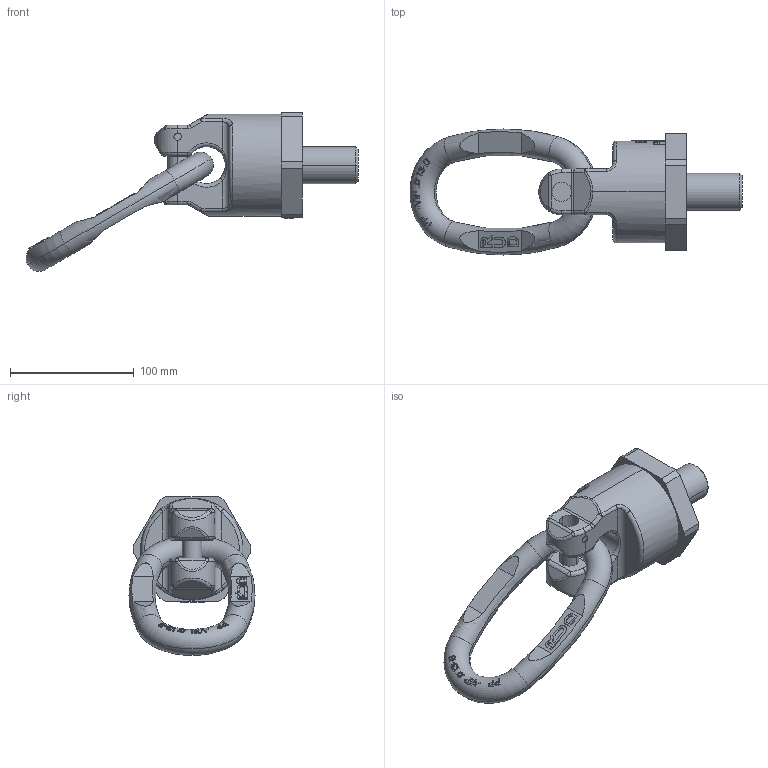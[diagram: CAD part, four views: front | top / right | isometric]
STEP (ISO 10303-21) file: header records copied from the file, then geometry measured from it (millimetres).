
FILE_DESCRIPTION((''),'2;1');
FILE_NAME('001-M31395-P-20_ASM','2018-04-27T',('Anja.Joas'),(''),'PRO/ENGINEER BY PARAMETRIC TECHNOLOGY CORPORATION, 2011490','PRO/ENGINEER BY PARAMETRIC TECHNOLOGY CORPORATION, 2011490','');
FILE_SCHEMA(('CONFIG_CONTROL_DESIGN'));
Length unit declared in the file: millimetre
Products named in the file (4): 001-M31395-P-20; 001-M31395-P-40; 001-M31290-004; 001-M31395-P-20_ASM
Assembly tree (3 placements, depth 2):
  001-M31395-P-20_ASM
    001-M31395-P-20
    001-M31395-P-40
    001-M31290-004
Bounding box: 268.76 x 102 x 128.5 mm (x, y, z)
Volume: 608967.3 mm3; surface area: 82961 mm2
Topology: 3 solids, 3 shells, 912 faces, 2494 edges, 1636 vertices
Faces by surface type: plane 781, cylinder 66, torus 32, bspline 26, sphere 4, cone 2, extrusion 1
Entity records: 30933 total; most frequent: CARTESIAN_POINT 8542, ORIENTED_EDGE 4988, DIRECTION 4053, EDGE_CURVE 2494, VECTOR 1753, LINE 1752, VERTEX_POINT 1636, AXIS2_PLACEMENT_3D 1150
